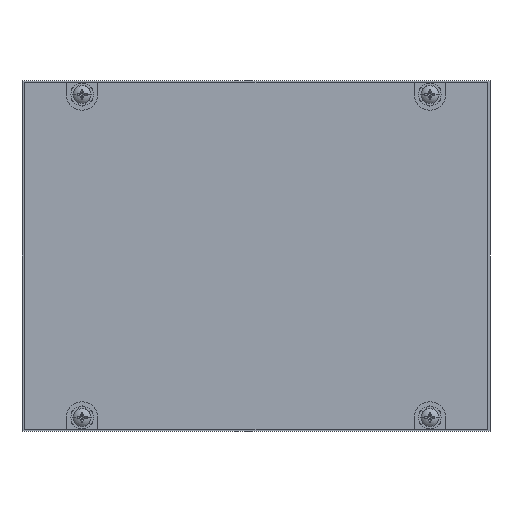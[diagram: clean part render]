
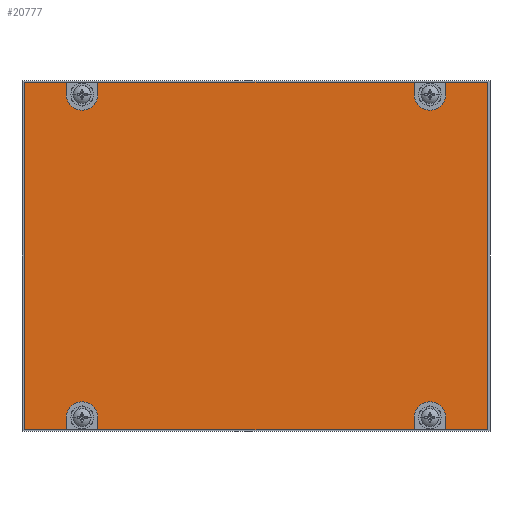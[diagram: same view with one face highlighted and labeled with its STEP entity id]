
A CAD part, front view. The second image highlights one B-rep face of the part: STEP entity #20777.
In plain terms, the highlighted planar face has unit normal (0, -1, 0).
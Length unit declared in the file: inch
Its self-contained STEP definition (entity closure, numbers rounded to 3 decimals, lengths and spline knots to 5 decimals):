
#6007=DIRECTION('',(1.,0.,0.));
#6008=VECTOR('',#6007,0.51);
#6009=CARTESIAN_POINT('',(-2.8,-0.062,-2.1));
#6010=LINE('',#6009,#6008);
#6011=DIRECTION('',(0.,0.,-1.));
#6012=VECTOR('',#6011,4.2);
#6013=CARTESIAN_POINT('',(-2.8,-0.062,2.1));
#6014=LINE('',#6013,#6012);
#6015=DIRECTION('',(-1.,0.,0.));
#6016=VECTOR('',#6015,0.51);
#6017=CARTESIAN_POINT('',(-2.29,-0.062,2.1));
#6018=LINE('',#6017,#6016);
#6019=DIRECTION('',(0.,0.,-1.));
#6020=VECTOR('',#6019,0.15);
#6021=CARTESIAN_POINT('',(-2.29,-0.062,2.1));
#6022=LINE('',#6021,#6020);
#6023=CARTESIAN_POINT('',(-2.1,-0.062,1.95));
#6024=DIRECTION('',(0.,-1.,0.));
#6025=DIRECTION('',(-1.,0.,0.));
#6026=AXIS2_PLACEMENT_3D('',#6023,#6024,#6025);
#6028=DIRECTION('',(0.,0.,-1.));
#6029=VECTOR('',#6028,0.15);
#6030=CARTESIAN_POINT('',(-1.91,-0.062,2.1));
#6031=LINE('',#6030,#6029);
#6032=DIRECTION('',(-1.,0.,0.));
#6033=VECTOR('',#6032,3.82);
#6034=CARTESIAN_POINT('',(1.91,-0.062,2.1));
#6035=LINE('',#6034,#6033);
#6036=DIRECTION('',(0.,0.,-1.));
#6037=VECTOR('',#6036,0.15);
#6038=CARTESIAN_POINT('',(1.91,-0.062,2.1));
#6039=LINE('',#6038,#6037);
#6040=CARTESIAN_POINT('',(2.1,-0.062,1.95));
#6041=DIRECTION('',(0.,-1.,0.));
#6042=DIRECTION('',(-1.,0.,0.));
#6043=AXIS2_PLACEMENT_3D('',#6040,#6041,#6042);
#6045=DIRECTION('',(0.,0.,-1.));
#6046=VECTOR('',#6045,0.15);
#6047=CARTESIAN_POINT('',(2.29,-0.062,2.1));
#6048=LINE('',#6047,#6046);
#6049=DIRECTION('',(-1.,0.,0.));
#6050=VECTOR('',#6049,0.51);
#6051=CARTESIAN_POINT('',(2.8,-0.062,2.1));
#6052=LINE('',#6051,#6050);
#6053=DIRECTION('',(0.,0.,1.));
#6054=VECTOR('',#6053,4.2);
#6055=CARTESIAN_POINT('',(2.8,-0.062,-2.1));
#6056=LINE('',#6055,#6054);
#6057=DIRECTION('',(1.,0.,0.));
#6058=VECTOR('',#6057,0.51);
#6059=CARTESIAN_POINT('',(2.29,-0.062,-2.1));
#6060=LINE('',#6059,#6058);
#6061=DIRECTION('',(0.,0.,1.));
#6062=VECTOR('',#6061,0.15);
#6063=CARTESIAN_POINT('',(2.29,-0.062,-2.1));
#6064=LINE('',#6063,#6062);
#6065=CARTESIAN_POINT('',(2.1,-0.062,-1.95));
#6066=DIRECTION('',(0.,-1.,0.));
#6067=DIRECTION('',(1.,0.,0.));
#6068=AXIS2_PLACEMENT_3D('',#6065,#6066,#6067);
#6070=DIRECTION('',(0.,0.,1.));
#6071=VECTOR('',#6070,0.15);
#6072=CARTESIAN_POINT('',(1.91,-0.062,-2.1));
#6073=LINE('',#6072,#6071);
#6074=DIRECTION('',(1.,0.,0.));
#6075=VECTOR('',#6074,3.82);
#6076=CARTESIAN_POINT('',(-1.91,-0.062,-2.1));
#6077=LINE('',#6076,#6075);
#6078=DIRECTION('',(0.,0.,1.));
#6079=VECTOR('',#6078,0.15);
#6080=CARTESIAN_POINT('',(-1.91,-0.062,-2.1));
#6081=LINE('',#6080,#6079);
#6082=CARTESIAN_POINT('',(-2.1,-0.062,-1.95));
#6083=DIRECTION('',(0.,-1.,0.));
#6084=DIRECTION('',(1.,0.,0.));
#6085=AXIS2_PLACEMENT_3D('',#6082,#6083,#6084);
#6087=DIRECTION('',(0.,0.,1.));
#6088=VECTOR('',#6087,0.15);
#6089=CARTESIAN_POINT('',(-2.29,-0.062,-2.1));
#6090=LINE('',#6089,#6088);
#9583=CARTESIAN_POINT('',(2.8,-0.062,-2.1));
#9584=CARTESIAN_POINT('',(2.8,-0.062,2.1));
#9585=VERTEX_POINT('',#9583);
#9586=VERTEX_POINT('',#9584);
#9587=CARTESIAN_POINT('',(-2.8,-0.062,2.1));
#9588=CARTESIAN_POINT('',(-2.8,-0.062,-2.1));
#9589=VERTEX_POINT('',#9587);
#9590=VERTEX_POINT('',#9588);
#9639=CARTESIAN_POINT('',(-2.29,-0.062,-2.1));
#9640=VERTEX_POINT('',#9639);
#9641=CARTESIAN_POINT('',(-1.91,-0.062,-2.1));
#9642=CARTESIAN_POINT('',(1.91,-0.062,-2.1));
#9643=VERTEX_POINT('',#9641);
#9644=VERTEX_POINT('',#9642);
#9645=CARTESIAN_POINT('',(2.29,-0.062,-2.1));
#9646=VERTEX_POINT('',#9645);
#9647=CARTESIAN_POINT('',(2.29,-0.062,2.1));
#9648=VERTEX_POINT('',#9647);
#9649=CARTESIAN_POINT('',(1.91,-0.062,2.1));
#9650=CARTESIAN_POINT('',(-1.91,-0.062,2.1));
#9651=VERTEX_POINT('',#9649);
#9652=VERTEX_POINT('',#9650);
#9653=CARTESIAN_POINT('',(-2.29,-0.062,2.1));
#9654=VERTEX_POINT('',#9653);
#9659=CARTESIAN_POINT('',(2.29,-0.062,-1.95));
#9660=VERTEX_POINT('',#9659);
#9661=CARTESIAN_POINT('',(1.91,-0.062,-1.95));
#9662=VERTEX_POINT('',#9661);
#9675=CARTESIAN_POINT('',(-1.91,-0.062,-1.95));
#9676=VERTEX_POINT('',#9675);
#9677=CARTESIAN_POINT('',(-2.29,-0.062,-1.95));
#9678=VERTEX_POINT('',#9677);
#9679=CARTESIAN_POINT('',(1.91,-0.062,1.95));
#9680=VERTEX_POINT('',#9679);
#9681=CARTESIAN_POINT('',(2.29,-0.062,1.95));
#9682=VERTEX_POINT('',#9681);
#9683=CARTESIAN_POINT('',(-2.29,-0.062,1.95));
#9684=VERTEX_POINT('',#9683);
#9685=CARTESIAN_POINT('',(-1.91,-0.062,1.95));
#9686=VERTEX_POINT('',#9685);
#20738=CARTESIAN_POINT('',(0.,-0.062,0.));
#20739=DIRECTION('',(0.,-1.,0.));
#20740=DIRECTION('',(0.,0.,1.));
#20741=AXIS2_PLACEMENT_3D('',#20738,#20739,#20740);
#20742=PLANE('',#20741);
#20743=ORIENTED_EDGE('',*,*,#20562,.F.);
#20744=ORIENTED_EDGE('',*,*,#20639,.F.);
#20745=ORIENTED_EDGE('',*,*,#20672,.F.);
#20747=ORIENTED_EDGE('',*,*,#20746,.T.);
#20749=ORIENTED_EDGE('',*,*,#20748,.T.);
#20751=ORIENTED_EDGE('',*,*,#20750,.F.);
#20752=ORIENTED_EDGE('',*,*,#20664,.F.);
#20754=ORIENTED_EDGE('',*,*,#20753,.T.);
#20756=ORIENTED_EDGE('',*,*,#20755,.T.);
#20758=ORIENTED_EDGE('',*,*,#20757,.F.);
#20759=ORIENTED_EDGE('',*,*,#20656,.F.);
#20760=ORIENTED_EDGE('',*,*,#20732,.F.);
#20761=ORIENTED_EDGE('',*,*,#20578,.F.);
#20763=ORIENTED_EDGE('',*,*,#20762,.T.);
#20765=ORIENTED_EDGE('',*,*,#20764,.T.);
#20767=ORIENTED_EDGE('',*,*,#20766,.F.);
#20768=ORIENTED_EDGE('',*,*,#20570,.F.);
#20770=ORIENTED_EDGE('',*,*,#20769,.T.);
#20772=ORIENTED_EDGE('',*,*,#20771,.T.);
#20774=ORIENTED_EDGE('',*,*,#20773,.F.);
#20775=EDGE_LOOP('',(#20743,#20744,#20745,#20747,#20749,#20751,#20752,#20754,
#20756,#20758,#20759,#20760,#20761,#20763,#20765,#20767,#20768,#20770,#20772,
#20774));
#20776=FACE_OUTER_BOUND('',#20775,.F.);
#20777=ADVANCED_FACE('',(#20776),#20742,.T.);
#6027=CIRCLE('',#6026,0.19);
#6044=CIRCLE('',#6043,0.19);
#6069=CIRCLE('',#6068,0.19);
#6086=CIRCLE('',#6085,0.19);
#20562=EDGE_CURVE('',#9590,#9640,#6010,.T.);
#20570=EDGE_CURVE('',#9643,#9644,#6077,.T.);
#20578=EDGE_CURVE('',#9646,#9585,#6060,.T.);
#20639=EDGE_CURVE('',#9589,#9590,#6014,.T.);
#20656=EDGE_CURVE('',#9586,#9648,#6052,.T.);
#20664=EDGE_CURVE('',#9651,#9652,#6035,.T.);
#20672=EDGE_CURVE('',#9654,#9589,#6018,.T.);
#20732=EDGE_CURVE('',#9585,#9586,#6056,.T.);
#20746=EDGE_CURVE('',#9654,#9684,#6022,.T.);
#20748=EDGE_CURVE('',#9684,#9686,#6027,.T.);
#20750=EDGE_CURVE('',#9652,#9686,#6031,.T.);
#20753=EDGE_CURVE('',#9651,#9680,#6039,.T.);
#20755=EDGE_CURVE('',#9680,#9682,#6044,.T.);
#20757=EDGE_CURVE('',#9648,#9682,#6048,.T.);
#20762=EDGE_CURVE('',#9646,#9660,#6064,.T.);
#20764=EDGE_CURVE('',#9660,#9662,#6069,.T.);
#20766=EDGE_CURVE('',#9644,#9662,#6073,.T.);
#20769=EDGE_CURVE('',#9643,#9676,#6081,.T.);
#20771=EDGE_CURVE('',#9676,#9678,#6086,.T.);
#20773=EDGE_CURVE('',#9640,#9678,#6090,.T.);
